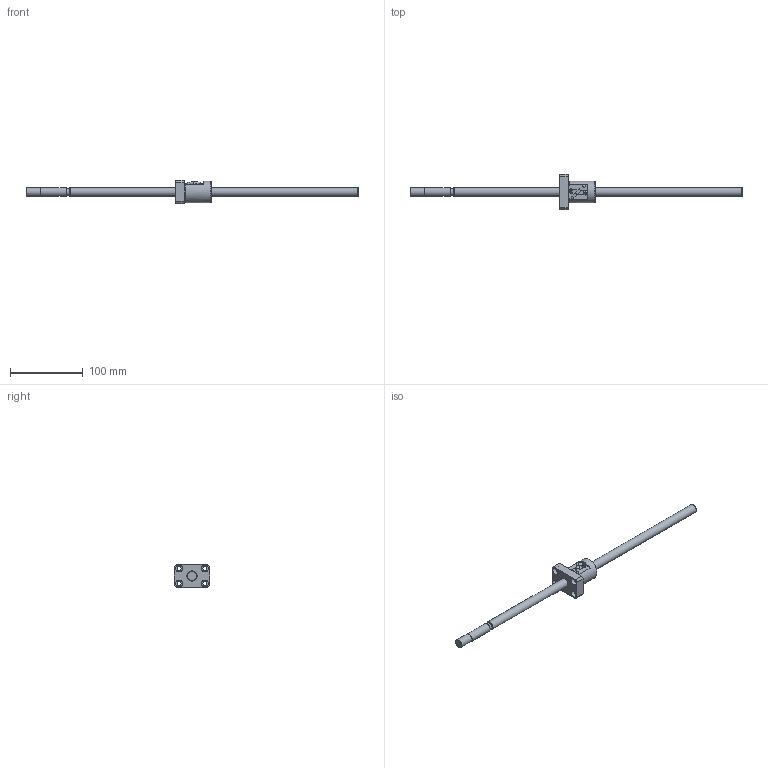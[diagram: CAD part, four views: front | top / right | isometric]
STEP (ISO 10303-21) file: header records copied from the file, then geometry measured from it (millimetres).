
FILE_DESCRIPTION((''),'2;1');
FILE_NAME('D:\製品 (図面)\カタログ用3D\ネジ関連\STEP形式\KBS(C)\KBS(C)1210-455.stp','2010-06-02T09:20:02',('Tsuchiya'),(''),'Autodesk Inventor 10','Autodesk Inventor 10','');
FILE_SCHEMA(('AUTOMOTIVE_DESIGN { 1 0 10303 214 1 1 1 1 }'));
Length unit declared in the file: millimetre
Products named in the file (3): KBS(C)1210-455; KBS(C)1210-4551; KBS(C)1210-4552
Assembly tree (2 placements, depth 2):
  KBS(C)1210-455
    KBS(C)1210-4551
    KBS(C)1210-4552
Bounding box: 455 x 48 x 32 mm (x, y, z)
Volume: 85852.4 mm3; surface area: 28832.6 mm2
Topology: 2 solids, 2 shells, 101 faces, 255 edges, 168 vertices
Faces by surface type: plane 42, cylinder 34, bspline 20, cone 3, torus 2
Full cylindrical faces by diameter (mm): 3.2 x1, 5.5 x4, 5.6 x1, 9.5 x5, 11.7 x1, 12 x3, 14 x2, 30 x1
Entity records: 3259 total; most frequent: CARTESIAN_POINT 922, ORIENTED_EDGE 444, DIRECTION 440, EDGE_CURVE 222, AXIS2_PLACEMENT_3D 164, VERTEX_POINT 162, EDGE_LOOP 154, VECTOR 112
